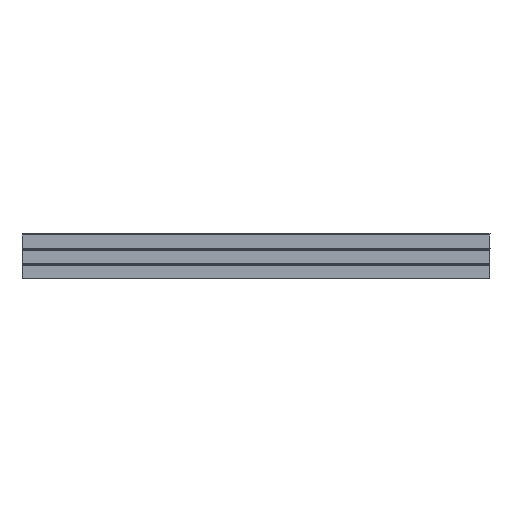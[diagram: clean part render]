
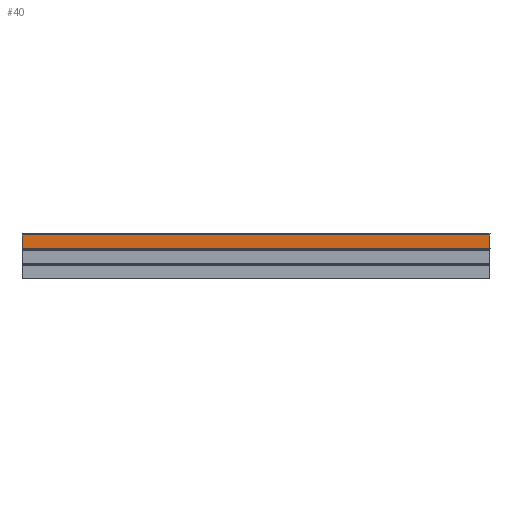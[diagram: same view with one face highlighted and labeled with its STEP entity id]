
A CAD part, top view. The second image highlights one B-rep face of the part: STEP entity #40.
In plain terms, the highlighted free-form (B-spline) face has degree [1, 1] with [2, 2] control points.
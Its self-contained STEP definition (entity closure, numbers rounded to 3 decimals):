
#40=ADVANCED_FACE('',(#64),#402,.T.);
#64=FACE_OUTER_BOUND('',#88,.T.);
#88=EDGE_LOOP('',(#169,#170,#171,#172));
#169=ORIENTED_EDGE('',*,*,#249,.T.);
#170=ORIENTED_EDGE('',*,*,#250,.T.);
#171=ORIENTED_EDGE('',*,*,#251,.F.);
#172=ORIENTED_EDGE('',*,*,#247,.F.);
#247=EDGE_CURVE('',#381,#382,#331,.T.);
#249=EDGE_CURVE('',#381,#383,#291,.T.);
#250=EDGE_CURVE('',#383,#384,#292,.T.);
#251=EDGE_CURVE('',#382,#384,#293,.T.);
#291=B_SPLINE_CURVE_WITH_KNOTS('',1,(#757,#758),.UNSPECIFIED.,.F.,.F.,(2,
2),(264.079,444.079),.UNSPECIFIED.);
#292=B_SPLINE_CURVE_WITH_KNOTS('',1,(#759,#760),.UNSPECIFIED.,.F.,.F.,(2,
2),(0.,6200.),.UNSPECIFIED.);
#293=B_SPLINE_CURVE_WITH_KNOTS('',1,(#761,#762),.UNSPECIFIED.,.F.,.F.,(2,
2),(264.079,444.079),.UNSPECIFIED.);
#331=(
BOUNDED_CURVE()
B_SPLINE_CURVE(1,(#752,#753),.UNSPECIFIED.,.F.,.F.)
B_SPLINE_CURVE_WITH_KNOTS((2,2),(0.,6200.),.UNSPECIFIED.)
CURVE()
GEOMETRIC_REPRESENTATION_ITEM()
RATIONAL_B_SPLINE_CURVE((1.,1.))
REPRESENTATION_ITEM('')
);
#381=VERTEX_POINT('',#721);
#382=VERTEX_POINT('',#722);
#383=VERTEX_POINT('',#723);
#384=VERTEX_POINT('',#724);
#402=B_SPLINE_SURFACE_WITH_KNOTS('',1,1,((#691,#692),(#693,#694)),
 .UNSPECIFIED.,.F.,.F.,.F.,(2,2),(2,2),(264.079,444.079),
(0.,6200.),.UNSPECIFIED.);
#691=CARTESIAN_POINT('',(-3100.,400.218,5.814));
#692=CARTESIAN_POINT('',(3100.,400.218,5.814));
#693=CARTESIAN_POINT('',(-3100.,580.218,5.814));
#694=CARTESIAN_POINT('',(3100.,580.218,5.814));
#721=CARTESIAN_POINT('',(-3100.,400.218,5.814));
#722=CARTESIAN_POINT('',(3100.,400.218,5.814));
#723=CARTESIAN_POINT('',(-3100.,580.218,5.814));
#724=CARTESIAN_POINT('',(3100.,580.218,5.814));
#752=CARTESIAN_POINT('',(-3100.,400.218,5.814));
#753=CARTESIAN_POINT('',(3100.,400.218,5.814));
#757=CARTESIAN_POINT('',(-3100.,400.218,5.814));
#758=CARTESIAN_POINT('',(-3100.,580.218,5.814));
#759=CARTESIAN_POINT('',(-3100.,580.218,5.814));
#760=CARTESIAN_POINT('',(3100.,580.218,5.814));
#761=CARTESIAN_POINT('',(3100.,400.218,5.814));
#762=CARTESIAN_POINT('',(3100.,580.218,5.814));
